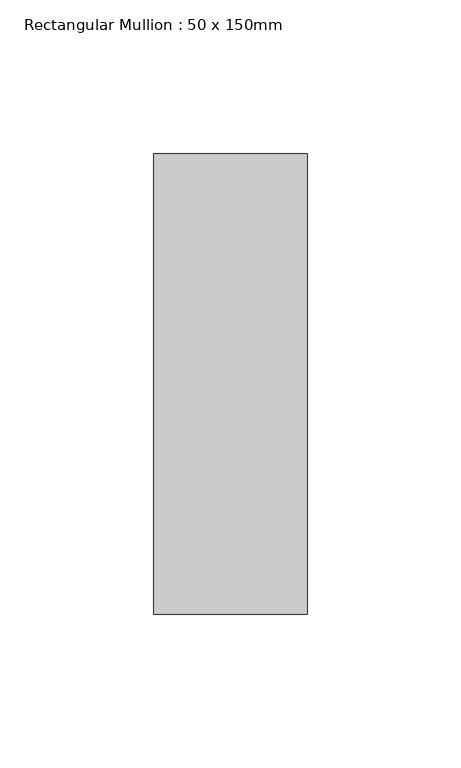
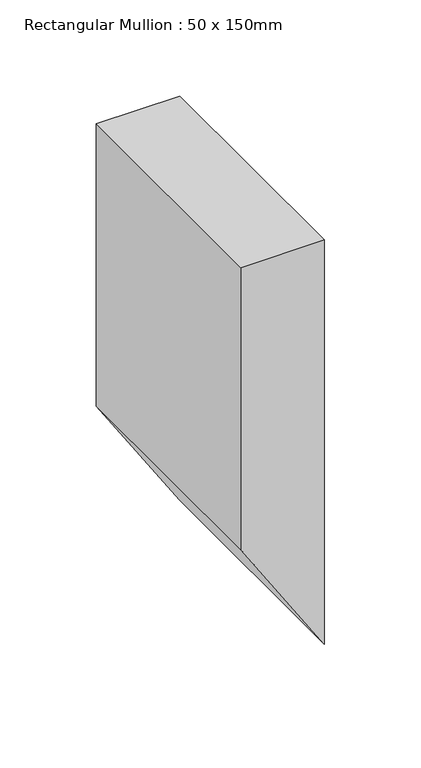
"""IFC4 building model written with IfcOpenShell, lengths in millimetres: member geometry, Rectangular Mullion : 50 x 150mm."""

from ifc_helpers import new_model, si_unit, frame, origin, place, context, project, spatial, polyline, outline, extrude, source, transform, mapped, element, save


def rectangular_mullion_50_x_150mm_702e2817(model_context):
    return source(origin(), model_context, "Body", "SweptSolid", [
        extrude(outline(polyline([(0.0, 25.0), (0.0, -25.0), (-178.7190769, -25.0), (-255.9801818, 25.0), (0.0, 25.0)])), frame((0.0, -75.0, 0.0), z_axis=(0.0, 1.0, 0.0), x_axis=(0.0, 0.0, 1.0)), (0.0, 0.0, 1.0), 150.0),
    ])


if __name__ == "__main__":
    model = new_model("IFC4")
    model_context = context("Model", 3, world=origin())
    ifc_project = project(units=[si_unit("LENGTHUNIT", "METRE", prefix="MILLI")], contexts=[model_context])
    site = spatial("IfcSite", under=ifc_project)
    building = spatial("IfcBuilding", under=site)
    placement = place(None, origin())
    rectangular_mullion_50_x_150mm_shape = rectangular_mullion_50_x_150mm_702e2817(model_context)
    element("IfcMember", 1, ObjectType="Rectangular Mullion : 50 x 150mm", at=placement, inside=building, context=model_context, shape_type="MappedRepresentation", body=[
        mapped(rectangular_mullion_50_x_150mm_shape, transform((0.0, 0.0, 0.0), x_axis=(1.0, 0.0, 0.0), y_axis=(0.0, 1.0, 0.0), z_axis=(0.0, 0.0, 1.0))),
    ])
    save(model, "model.ifc")
